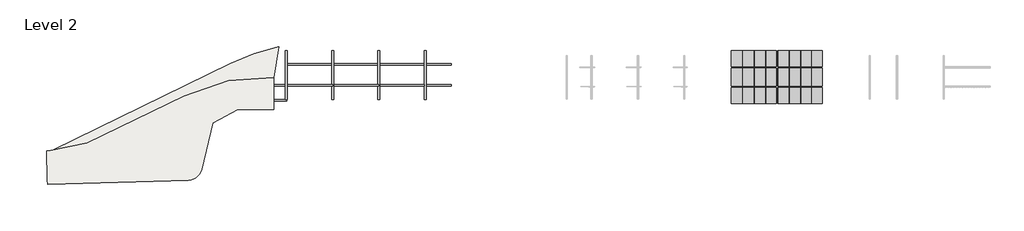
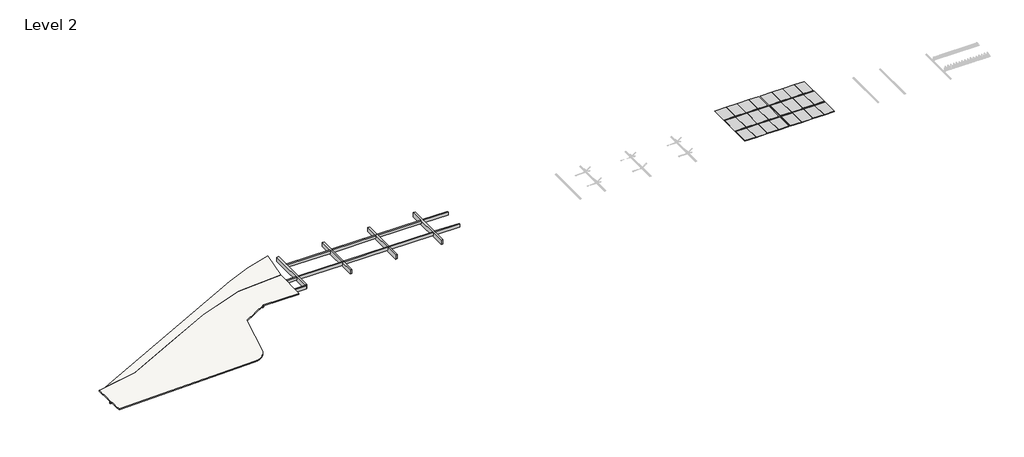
# One storey, part 1 of 3: 32 beams, 24 proxies, 2 slabs.
"""IFC4 building model written with IfcOpenShell, lengths in millimetres."""

import ifcopenshell
import ifcopenshell.guid

model = None  # the IFC model being written
_history = None  # IfcOwnerHistory: only IFC2X3 demands one
_inside = {}  # id of a spatial element -> (the spatial element, [elements in it])
_under = {}  # id of a project, library or spatial element -> (it, [spatial elements below it])
_declared = {}  # id of a project -> (the project, [libraries it declares])
_typed = {}  # id of a type object -> (the type object, [elements of that type])
_made_of = {}  # id of a material, layer set ... -> (it, [elements and type objects made of it])


def new_model(schema):
    """Start an empty IFC model of exactly this schema.

    Asked for "IFC4X3", IfcOpenShell would pick the latest addendum, in which some entities
    have other attributes; the version numbers below select the first issue.
    IFC2X3 requires an IfcOwnerHistory on every rooted entity: one is made here for all.
    """
    global model, _history
    if schema == "IFC4X3":
        model = ifcopenshell.file(schema_version=(4, 3, 0, 0))
    else:
        model = ifcopenshell.file(schema=schema)
    _inside.clear()
    _under.clear()
    _declared.clear()
    _typed.clear()
    _made_of.clear()
    _history = None
    if model.schema == "IFC2X3":
        org = make("IfcOrganization", Name="unknown")
        user = make(
            "IfcPersonAndOrganization",
            ThePerson=make("IfcPerson", FamilyName="unknown"),
            TheOrganization=org,
        )
        app = make(
            "IfcApplication",
            ApplicationDeveloper=org,
            Version="unknown",
            ApplicationFullName="unknown",
            ApplicationIdentifier="unknown",
        )
        _history = make(
            "IfcOwnerHistory",
            OwningUser=user,
            OwningApplication=app,
            ChangeAction="ADDED",
            CreationDate=0,
        )
    return model


def make(cls, **values):
    """One entity of the class cls with the attributes given. An attribute that is None is left unset."""
    return model.create_entity(
        cls, **{name: value for name, value in values.items() if value is not None}
    )


def rooted(cls, **values):
    """An entity with a GlobalId (a new one), such as an element, a storey or a relation."""
    return make(cls, GlobalId=ifcopenshell.guid.new(), OwnerHistory=_history, **values)


def si_unit(unit_type, name, prefix=None):
    """IfcSIUnit, for example si_unit("LENGTHUNIT", "METRE", prefix="MILLI")."""
    return make("IfcSIUnit", UnitType=unit_type, Prefix=prefix, Name=name)


def assignment(units):
    """IfcUnitAssignment: the units of a project."""
    return None if units is None else make("IfcUnitAssignment", Units=units)


def point(xyz):
    """IfcCartesianPoint."""
    return None if xyz is None else make("IfcCartesianPoint", Coordinates=xyz)


def direction(xyz):
    """IfcDirection."""
    return None if xyz is None else make("IfcDirection", DirectionRatios=xyz)


def frame(location, z_axis=None, x_axis=None):
    """IfcAxis2Placement3D, a coordinate frame: its origin and axes. An axis left out is left unset."""
    return make(
        "IfcAxis2Placement3D",
        Location=point(location),
        Axis=direction(z_axis),
        RefDirection=direction(x_axis),
    )


def frame_2d(location, x_axis=None):
    """IfcAxis2Placement2D, a coordinate frame in the plane: its origin and x axis."""
    return make(
        "IfcAxis2Placement2D", Location=point(location), RefDirection=direction(x_axis)
    )


def origin():
    """The frame at (0, 0, 0) with its axes left unset."""
    return frame((0.0, 0.0, 0.0))


def place(relative_to, where):
    """IfcLocalPlacement: puts the frame where relative to a parent placement (None: the world)."""
    return make(
        "IfcLocalPlacement", PlacementRelTo=relative_to, RelativePlacement=where
    )


def context(
    kind, dimensions, precision=None, world=None, true_north=None, identifier=None
):
    """IfcGeometricRepresentationContext, for example the 3D "Model" context."""
    return make(
        "IfcGeometricRepresentationContext",
        ContextIdentifier=identifier,
        ContextType=kind,
        CoordinateSpaceDimension=dimensions,
        Precision=precision,
        WorldCoordinateSystem=world,
        TrueNorth=true_north,
    )


def project(units=None, contexts=None):
    """IfcProject with its units and contexts."""
    return rooted(
        "IfcProject",
        Name="project",
        RepresentationContexts=contexts,
        UnitsInContext=assignment(units),
    )


def spatial(cls, under=None, at=None, **own):
    """A site, building, storey or space (cls), placed at a placement, below another one or the project."""
    s = rooted(cls, ObjectPlacement=at, **own)
    if under is not None:
        _under.setdefault(under.id(), (under, []))[1].append(s)
    return s


def polyline(points):
    """IfcPolyline through the points."""
    return make("IfcPolyline", Points=[point(p) for p in points])


def circle_curve(where, radius):
    """IfcCircle in the frame where."""
    return make("IfcCircle", Position=where, Radius=radius)


def trimmed(basis, trim1, trim2, sense, master):
    """IfcTrimmedCurve: the piece of a basis curve between two trims."""
    return make(
        "IfcTrimmedCurve",
        BasisCurve=basis,
        Trim1=trim1,
        Trim2=trim2,
        SenseAgreement=sense,
        MasterRepresentation=master,
    )


def segment(curve, same_sense, transition):
    """IfcCompositeCurveSegment."""
    return make(
        "IfcCompositeCurveSegment",
        Transition=transition,
        SameSense=same_sense,
        ParentCurve=curve,
    )


def composite_curve(segments, self_intersect=None):
    """IfcCompositeCurve: segments joined end to end."""
    return make("IfcCompositeCurve", Segments=segments, SelfIntersect=self_intersect)


def outline(outer, holes=None, kind="AREA"):
    """IfcArbitraryClosedProfileDef: a profile drawn as a closed curve; with holes, ...WithVoids."""
    if holes is None:
        return make("IfcArbitraryClosedProfileDef", ProfileType=kind, OuterCurve=outer)
    return make(
        "IfcArbitraryProfileDefWithVoids",
        ProfileType=kind,
        OuterCurve=outer,
        InnerCurves=holes,
    )


def extrude(swept, where, along, depth):
    """IfcExtrudedAreaSolid: the profile swept, set in the frame where, extruded along a direction by depth."""
    return make(
        "IfcExtrudedAreaSolid",
        SweptArea=swept,
        Position=where,
        ExtrudedDirection=direction(along),
        Depth=depth,
    )


def faces_of(points, faces, orient=None, outer=None):
    """IfcFace entities. A face is a list of loops; a loop is a list of indices into points, from 0.

    orient and outer hold one flag for each loop. By default every Orientation is true, the
    first loop of a face is its IfcFaceOuterBound and the others are IfcFaceBound.
    """
    made = []
    for i, loops in enumerate(faces):
        bounds = []
        for j, loop in enumerate(loops):
            is_outer = j == 0 if outer is None else outer[i][j]
            bounds.append(
                make(
                    "IfcFaceOuterBound" if is_outer else "IfcFaceBound",
                    Bound=make("IfcPolyLoop", Polygon=[points[k] for k in loop]),
                    Orientation=True if orient is None else orient[i][j],
                )
            )
        made.append(make("IfcFace", Bounds=bounds))
    return made


def faceted_brep(points, faces, orient=None, outer=None, voids=None):
    """IfcFacetedBrep: a solid bounded by flat faces; with voids (closed shells), ...WithVoids."""
    shared = [point(p) for p in points]
    hull = make("IfcClosedShell", CfsFaces=faces_of(shared, faces, orient, outer))
    if voids is None:
        return make("IfcFacetedBrep", Outer=hull)
    return make(
        "IfcFacetedBrepWithVoids",
        Outer=hull,
        Voids=[
            make(cls, CfsFaces=faces_of(shared, fs, o, b)) for cls, fs, o, b in voids
        ],
    )


def shape(context_of_items, identifier, shape_type, items):
    """IfcShapeRepresentation: the items that make up one representation, for example the "Body"."""
    return make(
        "IfcShapeRepresentation",
        ContextOfItems=context_of_items,
        RepresentationIdentifier=identifier,
        RepresentationType=shape_type,
        Items=items,
    )


def source(mapping_origin, context_of_items, identifier, shape_type, items):
    """IfcRepresentationMap: a shape defined once, which mapped items show again and again."""
    return make(
        "IfcRepresentationMap",
        MappingOrigin=mapping_origin,
        MappedRepresentation=shape(context_of_items, identifier, shape_type, items),
    )


def transform(
    local_origin,
    x_axis=None,
    y_axis=None,
    z_axis=None,
    scale=None,
    scale2=None,
    scale3=None,
    uniform=True,
):
    """IfcCartesianTransformationOperator3D, or its non-uniform kind. x_axis, y_axis, z_axis: its Axis1, 2, 3."""
    if uniform:
        return make(
            "IfcCartesianTransformationOperator3D",
            Axis1=direction(x_axis),
            Axis2=direction(y_axis),
            LocalOrigin=point(local_origin),
            Scale=scale,
            Axis3=direction(z_axis),
        )
    return make(
        "IfcCartesianTransformationOperator3DnonUniform",
        Axis1=direction(x_axis),
        Axis2=direction(y_axis),
        LocalOrigin=point(local_origin),
        Scale=scale,
        Axis3=direction(z_axis),
        Scale2=scale2,
        Scale3=scale3,
    )


def mapped(mapping_source, mapping_target):
    """IfcMappedItem: shows the shape of a source again, moved by a transform."""
    return make(
        "IfcMappedItem", MappingSource=mapping_source, MappingTarget=mapping_target
    )


def made_of(thing, what):
    """Note that an element or type object is made of a material, layer set ...; save() writes the relation."""
    if what is not None:
        _made_of.setdefault(what.id(), (what, []))[1].append(thing)
    return thing


def element(
    cls,
    number,
    at=None,
    inside=None,
    cuts=None,
    type_object=None,
    material=None,
    context=None,
    identifier="Body",
    shape_type=None,
    held_by="IfcProductDefinitionShape",
    body=None,
    shapes=None,
    **own,
):
    """One element of the class cls, such as IfcWall. Its Tag is "e" and its number.

    at: its placement. inside: the storey or other place that contains it. cuts: it is an
    opening in that element (IfcRelVoidsElement). A single representation is given by context,
    identifier, shape_type and body (its items); several are given by shapes. held_by: the class
    of the entity that holds the representations. save() writes the other relations.
    """
    e = rooted(cls, Tag="e%d" % number, ObjectPlacement=at, **own)
    if body is not None:
        shapes = [shape(context, identifier, shape_type, body)]
    if shapes is not None:
        e.Representation = make(held_by, Representations=shapes)
    if inside is not None:
        _inside.setdefault(inside.id(), (inside, []))[1].append(e)
    if cuts is not None:
        rooted(
            "IfcRelVoidsElement", RelatingBuildingElement=cuts, RelatedOpeningElement=e
        )
    if type_object is not None:
        _typed.setdefault(type_object.id(), (type_object, []))[1].append(e)
    return made_of(e, material)


def aggregate(whole, parts):
    """IfcRelAggregates: a whole, such as a stair, and the parts it consists of."""
    return rooted("IfcRelAggregates", RelatingObject=whole, RelatedObjects=parts)


def save(model, path):
    """Write the relations noted so far, then the file.

    IfcRelAggregates (storeys below a building ...), IfcRelContainedInSpatialStructure (elements
    in a storey), IfcRelDefinesByType, IfcRelAssociatesMaterial and IfcRelDeclares: one each for
    every whole, place, type object, material and project.
    """
    for whole, parts in _under.values():
        aggregate(whole, parts)
    for where, things in _inside.values():
        rooted(
            "IfcRelContainedInSpatialStructure",
            RelatedElements=things,
            RelatingStructure=where,
        )
    for kind, things in _typed.values():
        rooted("IfcRelDefinesByType", RelatedObjects=things, RelatingType=kind)
    for what, things in _made_of.values():
        rooted("IfcRelAssociatesMaterial", RelatedObjects=things, RelatingMaterial=what)
    for by, libraries in _declared.values():
        rooted("IfcRelDeclares", RelatingContext=by, RelatedDefinitions=libraries)
    model.write(path)


def plane_surface(at):
    """IfcPlane: the flat surface through the origin of the frame at, square to its z axis."""
    return make("IfcPlane", Position=at)


def cylinder_surface(at, radius):
    """IfcCylindricalSurface: all points at the distance radius from the z axis of the frame at."""
    return make("IfcCylindricalSurface", Position=at, Radius=radius)


def advanced_brep(points, edges, surfaces, faces):
    """IfcAdvancedBrep: a solid bounded by faces that lie on surfaces and meet in shared edges.

    An edge is (start, end): straight between two places in points (the first is 0);
    or (start, end, curve); or (start, end, curve, False) where it runs against its curve.
    A face is (place in surfaces, loops), or (place, loops, False) where it looks against
    its surface's normal. A loop lists edges by number (the first is 1), with a minus sign
    where the edge is run from its end to its start. The first loop is the outer one.
    """
    corners = [point(p) for p in points]
    vertices = [make("IfcVertexPoint", VertexGeometry=c) for c in corners]
    made = []
    for start, end, *more in edges:
        made.append(
            make(
                "IfcEdgeCurve",
                EdgeStart=vertices[start],
                EdgeEnd=vertices[end],
                EdgeGeometry=more[0] if more else make("IfcPolyline", Points=[corners[start], corners[end]]),
                SameSense=more[1] if len(more) > 1 else True,
            )
        )
    hull = []
    for where, loops, *sense in faces:
        bounds = []
        for j, loop in enumerate(loops):
            ring = [make("IfcOrientedEdge", EdgeElement=made[abs(k) - 1], Orientation=k > 0) for k in loop]
            bounds.append(
                make(
                    "IfcFaceOuterBound" if j == 0 else "IfcFaceBound",
                    Bound=make("IfcEdgeLoop", EdgeList=ring),
                    Orientation=True,
                )
            )
        hull.append(make("IfcAdvancedFace", Bounds=bounds, FaceSurface=surfaces[where], SameSense=sense[0] if sense else True))
    return make("IfcAdvancedBrep", Outer=make("IfcClosedShell", CfsFaces=hull))


def generic_models_ed41efe7(model_context):
    return source(origin(), model_context, "Body", "SweptSolid", [
        extrude(outline(polyline([(0.0, -1200.0), (0.0, 0.0), (1706.5, 0.0), (1706.5, -1200.0), (0.0, -1200.0)])), frame((0.0, 599.9853784, -4.1887562), z_axis=(0.0, 0.006981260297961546, 0.9999756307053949), x_axis=(1.0, 0.0, 0.0)), (0.0, 0.0, 1.0), 40.0),
    ])


def generic_models_6132fe0e(model_context):
    return source(origin(), model_context, "Body", "SweptSolid", [
        extrude(outline(polyline([(0.0, -1080.0), (0.0, 0.0), (1706.5, 0.0), (1706.5, -1080.0), (0.0, -1080.0)])), frame((0.0, 539.9868406, -3.7698806), z_axis=(0.0, 0.006981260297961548, 0.9999756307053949), x_axis=(1.0, 0.0, 0.0)), (0.0, 0.0, 1.0), 40.0),
    ])


def generic_models_38589909(model_context):
    return source(origin(), model_context, "Body", "SweptSolid", [
        extrude(outline(polyline([(0.0, -1200.0), (0.0, 0.0), (1890.0, 0.0), (1890.0, -1200.0), (0.0, -1200.0)])), frame((0.0, 599.9853784, -4.1887562), z_axis=(0.0, 0.006981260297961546, 0.9999756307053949), x_axis=(1.0, 0.0, 0.0)), (0.0, 0.0, 1.0), 40.0),
    ])


def generic_models_f24f269b(model_context):
    return source(origin(), model_context, "Body", "SweptSolid", [
        extrude(outline(polyline([(0.0, -1080.0), (0.0, 0.0), (1890.0, 0.0), (1890.0, -1080.0), (0.0, -1080.0)])), frame((0.0, 539.9868406, -3.7698806), z_axis=(0.0, 0.006981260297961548, 0.9999756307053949), x_axis=(1.0, 0.0, 0.0)), (0.0, 0.0, 1.0), 40.0),
    ])


def generic_models_33fa443c(model_context):
    return source(origin(), model_context, "Body", "SweptSolid", [
        extrude(outline(polyline([(0.0, -1200.0), (0.0, 0.0), (1668.6, 0.0), (1668.6, -1200.0), (0.0, -1200.0)])), frame((0.0, 599.9853784, -4.1887562), z_axis=(0.0, 0.006981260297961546, 0.9999756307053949), x_axis=(1.0, 0.0, 0.0)), (0.0, 0.0, 1.0), 40.0),
    ])


def generic_models_97837bbf(model_context):
    return source(origin(), model_context, "Body", "SweptSolid", [
        extrude(outline(polyline([(0.0, -1080.0), (0.0, 0.0), (1668.6, 0.0), (1668.6, -1080.0), (0.0, -1080.0)])), frame((0.0, 539.9868406, -3.7698806), z_axis=(0.0, 0.006981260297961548, 0.9999756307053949), x_axis=(1.0, 0.0, 0.0)), (0.0, 0.0, 1.0), 40.0),
    ])


model = new_model("IFC4")

# Units and contexts
model_context = context("Model", 3, world=origin())
ifc_project = project(units=[si_unit("LENGTHUNIT", "METRE", prefix="MILLI")], contexts=[model_context])

# Site, building, storey
site = spatial("IfcSite", under=ifc_project)
building = spatial("IfcBuilding", under=site)
storey = spatial("IfcBuildingStorey", under=building, Name="Level 2", Elevation=0.0)

# Beams
placement = place(None, origin())
element("IfcBeam", 1, ObjectType="Calcestruzzo - Trave rettangolare : 140 x 420mm", at=placement, inside=storey, context=model_context, shape_type="SweptSolid", body=[
    extrude(outline(polyline([(-39836.760163, 17690.665715), (-39841.1257436, 17830.5976331), (-35356.3077681, 17970.5144907), (-35351.9421876, 17830.5825726), (-39836.760163, 17690.665715)])), frame((0.0, 0.0, -620.0), z_axis=(0.0, 0.0, 1.0), x_axis=(1.0, 0.0, 0.0)), (0.0, 0.0, 1.0), 330.0),
])
element("IfcBeam", 2, ObjectType="Calcestruzzo - Trave rettangolare : 140 x 420mm", at=placement, inside=storey, context=model_context, shape_type="SweptSolid", body=[
    extrude(outline(polyline([(-24137.8379294, 18320.5070781), (-24171.5156126, 18179.3882904), (-25734.8772937, 18130.6147047), (-25739.2428743, 18270.5466228), (-24137.8379294, 18320.5070781)])), frame((0.0, 0.0, -620.0), z_axis=(0.0, 0.0, 1.0), x_axis=(1.0, 0.0, 0.0)), (0.0, 0.0, 1.0), 330.0),
])
element("IfcBeam", 3, ObjectType="Calcestruzzo - Trave rettangolare : 140 x 420mm", at=placement, inside=storey, context=model_context, shape_type="Brep", body=[
    faceted_brep([(-25942.3900071, 24389.7333416, -200.0), (-25946.7555877, 24529.6652597, -200.0), (-25946.7555877, 24529.6652597, -620.0), (-25942.3900071, 24389.7333416, -620.0), (-24644.0824984, 24430.2377964, -200.0), (-24246.9133429, 24582.696751, -200.0), (-24246.9133429, 24582.696751, -290.0), (-22985.0320383, 24622.0647851, -290.0), (-22985.0320383, 24622.0647851, -620.0), (-22980.6664577, 24482.132867, -620.0), (-22980.6664577, 24482.132867, -290.0), (-24644.0824984, 24430.2377964, -290.0)], [[[0, 1, 2, 3]], [[1, 0, 4, 5]], [[2, 1, 5, 6, 7, 8]], [[3, 2, 8, 9]], [[0, 3, 9, 10, 11, 4]], [[9, 8, 7, 10]], [[6, 11, 10, 7]], [[11, 6, 5, 4]]]),
])
element("IfcBeam", 4, ObjectType="Calcestruzzo - Trave rettangolare : 150 x 320mm", at=placement, inside=storey, context=model_context, shape_type="SweptSolid", body=[
    extrude(outline(polyline([(-471.3972271, -5311.275001), (-489.6179608, -571.2723874), (-170.2429329, -571.2723874), (-153.8415398, -5311.275001), (-471.3972271, -5311.275001)])), frame((0.0, 28318.3893107, 0.0), z_axis=(0.0, 1.0, 0.0), x_axis=(0.0, 0.0, 1.0)), (0.0, 0.0, 1.0), 150.0),
])
element("IfcBeam", 5, ObjectType="Calcestruzzo - Trave rettangolare : 150 x 320mm", at=placement, inside=storey, context=model_context, shape_type="Brep", body=[
    faceted_brep([(-5311.275001, 28318.3893107, -151.3948629), (-5311.275001, 28468.3893107, -151.3948629), (-10051.2776146, 28468.3893107, -138.2767532), (-10051.2776146, 28318.3893107, -138.2767532), (-5311.275001, 28468.3893107, -153.8415398), (-5311.275001, 28468.3893107, -471.3960884), (-10051.2776146, 28468.3893107, -458.2779787), (-5311.275001, 28318.3893107, -471.3960884), (-10051.2776146, 28318.3893107, -458.2779787), (-5311.275001, 28318.3893107, -153.8415398)], [[[0, 1, 2, 3]], [[1, 4, 5, 6, 2]], [[5, 7, 8, 6]], [[7, 9, 0, 3, 8]], [[3, 2, 6, 8]], [[0, 9, 7, 5, 4, 1]]]),
])
element("IfcBeam", 6, ObjectType="Calcestruzzo - Trave rettangolare : 150 x 320mm", at=placement, inside=storey, context=model_context, shape_type="SweptSolid", body=[
    extrude(outline(polyline([(-457.66095, -10251.2776146), (-138.0, -10251.2776146), (-138.0, -10151.2776146), (-121.8409095, -14891.2723874), (-441.842769, -14891.2723874), (-457.66095, -10251.2776146)])), frame((0.0, 28318.3893107, 0.0), z_axis=(0.0, 1.0, 0.0), x_axis=(0.0, 0.0, 1.0)), (0.0, 0.0, 1.0), 150.0),
])
element("IfcBeam", 7, ObjectType="Calcestruzzo - Trave rettangolare : 150 x 320mm", at=placement, inside=storey, context=model_context, shape_type="SweptSolid", body=[
    extrude(outline(polyline([(-473.5531519, -5311.275001), (-489.661999, -571.2723874), (-170.2429329, -571.2723874), (-153.8415398, -5311.275001), (-473.5531519, -5311.275001)])), frame((0.0, 26118.3881227, 0.0), z_axis=(0.0, 1.0, 0.0), x_axis=(0.0, 0.0, 1.0)), (0.0, 0.0, 1.0), 150.0),
])
element("IfcBeam", 8, ObjectType="Calcestruzzo - Trave rettangolare : 150 x 320mm", at=placement, inside=storey, context=model_context, shape_type="Brep", body=[
    faceted_brep([(-5311.275001, 26118.3881227, -153.551304), (-5311.275001, 26268.3881227, -153.551304), (-10051.2776146, 26268.3881227, -138.3213078), (-10051.2776146, 26118.3881227, -138.3213078), (-5311.275001, 26268.3881227, -153.8415398), (-5311.275001, 26268.3881227, -473.5529558), (-10051.2776146, 26268.3881227, -458.3229596), (-5311.275001, 26118.3881227, -473.5529558), (-10051.2776146, 26118.3881227, -458.3229596), (-5311.275001, 26118.3881227, -153.8415398)], [[[0, 1, 2, 3]], [[1, 4, 5, 6, 2]], [[5, 7, 8, 6]], [[7, 9, 0, 3, 8]], [[3, 2, 6, 8]], [[0, 9, 7, 5, 4, 1]]]),
])
element("IfcBeam", 9, ObjectType="Calcestruzzo - Trave rettangolare : 150 x 320mm", at=placement, inside=storey, context=model_context, shape_type="SweptSolid", body=[
    extrude(outline(polyline([(-457.66095, -10251.2776146), (-138.0, -10251.2776146), (-138.0, -10151.2776146), (-121.8409095, -14891.2723874), (-441.842769, -14891.2723874), (-457.66095, -10251.2776146)])), frame((0.0, 26118.3881227, 0.0), z_axis=(0.0, 1.0, 0.0), x_axis=(0.0, 0.0, 1.0)), (0.0, 0.0, 1.0), 150.0),
])
element("IfcBeam", 10, ObjectType="Calcestruzzo - Trave rettangolare : 150 x 320mm", at=placement, inside=storey, context=model_context, shape_type="SweptSolid", body=[
    extrude(outline(polyline([(-520.119785, 2254.8123385), (-200.1392898, 2258.3454283), (-171.1041579, -371.2723874), (-491.1236639, -371.2723874), (-520.119785, 2254.8123385)])), frame((0.0, 26118.3881227, 0.0), z_axis=(0.0, 1.0, 0.0), x_axis=(0.0, 0.0, 1.0)), (0.0, 0.0, 1.0), 150.0),
])
element("IfcBeam", 11, ObjectType="Calcestruzzo - Trave rettangolare : 150 x 320mm", at=placement, inside=storey, context=model_context, shape_type="SweptSolid", body=[
    extrude(outline(polyline([(-520.1195295, 2261.8216332), (-200.1389343, 2265.345645), (-171.1013205, -371.2723874), (-491.1207264, -371.2723874), (-520.1195295, 2261.8216332)])), frame((0.0, 28318.3893107, 0.0), z_axis=(0.0, 1.0, 0.0), x_axis=(0.0, 0.0, 1.0)), (0.0, 0.0, 1.0), 150.0),
])
element("IfcBeam", 12, ObjectType="Calcestruzzo - Trave rettangolare : 150 x 320mm", at=placement, inside=storey, context=model_context, shape_type="SweptSolid", body=[
    extrude(outline(polyline([(-30597.4939823, 18123.9818721), (-30592.8165746, 17974.054817), (-35151.8835338, 17831.8215478), (-35156.5609416, 17981.7486029), (-30597.4939823, 18123.9818721)])), frame((0.0, 0.0, -520.0), z_axis=(0.0, 0.0, 1.0), x_axis=(1.0, 0.0, 0.0)), (0.0, 0.0, 1.0), 230.0),
])
element("IfcBeam", 13, ObjectType="Calcestruzzo - Trave rettangolare : 150 x 320mm", at=placement, inside=storey, context=model_context, shape_type="Brep", body=[
    faceted_brep([(-35229.8480314, 20330.8526607, -200.0), (-35225.1706237, 20180.9256056, -200.0), (-34853.6119962, 20192.5174507, -200.0), (-34501.5357736, 20353.5744664, -200.0), (-35229.8480314, 20330.8526607, -520.0), (-34501.5357736, 20353.5744664, -290.0), (-30670.7810722, 20473.0859299, -290.0), (-30670.7810722, 20473.0859299, -520.0), (-35225.1706237, 20180.9256056, -520.0), (-30666.1036644, 20323.1588748, -520.0), (-30666.1036644, 20323.1588748, -290.0), (-34853.6119962, 20192.5174507, -290.0)], [[[0, 1, 2, 3]], [[4, 0, 3, 5, 6, 7]], [[8, 4, 7, 9]], [[1, 8, 9, 10, 11, 2]], [[0, 4, 8, 1]], [[9, 7, 6, 10]], [[5, 11, 10, 6]], [[11, 5, 3, 2]]]),
])
element("IfcBeam", 14, ObjectType="Calcestruzzo - Trave rettangolare : 150 x 320mm", at=placement, inside=storey, context=model_context, shape_type="SweptSolid", body=[
    extrude(outline(polyline([(-30392.9138344, 17980.2913607), (-30397.5912422, 18130.2184158), (-25939.3015281, 18269.3076477), (-25934.6241203, 18119.3805925), (-30392.9138344, 17980.2913607)])), frame((0.0, 0.0, -520.0), z_axis=(0.0, 0.0, 1.0), x_axis=(1.0, 0.0, 0.0)), (0.0, 0.0, 1.0), 230.0),
])
element("IfcBeam", 15, ObjectType="Calcestruzzo - Trave rettangolare : 150 x 320mm", at=placement, inside=storey, context=model_context, shape_type="SweptSolid", body=[
    extrude(outline(polyline([(-26037.5764604, 20617.6321375), (-26032.8990527, 20467.7050824), (-30466.2009243, 20329.3954185), (-30470.878332, 20479.3224736), (-26037.5764604, 20617.6321375)])), frame((0.0, 0.0, -520.0), z_axis=(0.0, 0.0, 1.0), x_axis=(1.0, 0.0, 0.0)), (0.0, 0.0, 1.0), 230.0),
])
element("IfcBeam", 16, ObjectType="Calcestruzzo - Trave rettangolare : 150 x 320mm", at=placement, inside=storey, context=model_context, shape_type="SweptSolid", body=[
    extrude(outline(polyline([(-25783.0206275, 20475.500762), (-25787.6980352, 20625.4278171), (-23364.1129988, 20701.0385563), (-23400.1962308, 20549.8398553), (-25783.0206275, 20475.500762)])), frame((0.0, 0.0, -520.0), z_axis=(0.0, 0.0, 1.0), x_axis=(1.0, 0.0, 0.0)), (0.0, 0.0, 1.0), 230.0),
])
element("IfcBeam", 17, ObjectType="Calcestruzzo - Trave rettangolare : 150 x 320mm", at=placement, inside=storey, context=model_context, shape_type="Brep", body=[
    faceted_brep([(-30536.1215469, 22178.0300127, -200.0), (-30536.1215469, 22178.0300127, -520.0), (-30531.4441392, 22028.1029576, -520.0), (-30531.4441392, 22028.1029576, -290.0), (-30535.7992042, 22167.697817, -290.0), (-30535.7992042, 22167.697817, -200.0), (-30523.2718094, 22173.4284648, -200.0), (-30509.0871967, 22178.8734274, -200.0), (-30509.0871967, 22178.8734274, -290.0), (-26065.5966174, 22317.5009575, -290.0), (-26065.5966174, 22317.5009575, -520.0), (-26060.9192097, 22167.5739024, -520.0), (-26060.9192097, 22167.5739024, -290.0), (-30523.2718094, 22173.4284648, -290.0)], [[[0, 1, 2, 3, 4, 5]], [[0, 5, 6, 7]], [[1, 0, 7, 8, 9, 10]], [[2, 1, 10, 11]], [[2, 11, 12, 3]], [[11, 10, 9, 12]], [[8, 13, 4, 3, 12, 9]], [[4, 13, 6, 5]], [[13, 8, 7, 6]]]),
])
element("IfcBeam", 18, ObjectType="Calcestruzzo - Trave rettangolare : 150 x 320mm", at=placement, inside=storey, context=model_context, shape_type="SweptSolid", body=[
    extrude(outline(polyline([(-25861.0164695, 22173.8104461), (-25865.6938773, 22323.7375012), (-22955.1899289, 22414.539083), (-22991.2731609, 22263.340382), (-25861.0164695, 22173.8104461)])), frame((0.0, 0.0, -520.0), z_axis=(0.0, 0.0, 1.0), x_axis=(1.0, 0.0, 0.0)), (0.0, 0.0, 1.0), 230.0),
])
element("IfcBeam", 19, ObjectType="Calcestruzzo - Trave rettangolare : 150 x 320mm", at=placement, inside=storey, context=model_context, shape_type="Brep", body=[
    faceted_brep([(-19927.6787789, 24572.3772079, -200.0), (-19932.3561867, 24722.304263, -200.0), (-21894.1292349, 24661.1010834, -200.0), (-21822.7709321, 24513.2543315, -200.0), (-19932.3561867, 24722.304263, -520.0), (-22785.2852117, 24633.2988973, -520.0), (-22785.2852117, 24633.2988973, -290.0), (-21894.1292349, 24661.1010834, -290.0), (-22780.6078039, 24483.3718421, -520.0), (-19927.6787789, 24572.3772079, -520.0), (-21822.7709321, 24513.2543315, -290.0), (-22780.6078039, 24483.3718421, -290.0)], [[[0, 1, 2, 3]], [[1, 4, 5, 6, 7, 2]], [[8, 5, 4, 9]], [[9, 0, 3, 10, 11, 8]], [[5, 8, 11, 6]], [[4, 1, 0, 9]], [[10, 7, 6, 11]], [[7, 10, 3, 2]]]),
])
element("IfcBeam", 20, ObjectType="Calcestruzzo - Trave rettangolare : 150 x 320mm", at=placement, inside=storey, context=model_context, shape_type="SweptSolid", body=[
    extrude(outline(polyline([(-22817.7558339, 25674.0943568), (-22822.4635653, 25824.9933897), (-19979.6858506, 26239.3832696), (-19974.9781191, 26088.4842367), (-22817.7558339, 25674.0943568)])), frame((0.0, 0.0, -520.0), z_axis=(0.0, 0.0, 1.0), x_axis=(1.0, 0.0, 0.0)), (0.0, 0.0, 1.0), 320.0),
])
element("IfcBeam", 21, ObjectType="Calcestruzzo - Trave rettangolare : 150 x 320mm", at=placement, inside=storey, context=model_context, shape_type="SweptSolid", body=[
    extrude(outline(polyline([(-19732.339, 24572.3066945), (-19732.339, 24722.3066945), (-15091.2723874, 24722.3066945), (-15091.2723874, 24702.6979993), (-14978.939, 24702.6979993), (-14978.939, 24572.3066945), (-19732.339, 24572.3066945)])), frame((0.0, 0.0, -520.0), z_axis=(0.0, 0.0, 1.0), x_axis=(1.0, 0.0, 0.0)), (0.0, 0.0, 1.0), 320.0),
])
element("IfcBeam", 22, ObjectType="Calcestruzzo - Trave rettangolare : 150 x 320mm", at=placement, inside=storey, context=model_context, shape_type="SweptSolid", body=[
    extrude(outline(polyline([(-200.2076059, -19732.5115118), (-520.163522, -19727.2000387), (-443.204154, -15091.2723874), (-123.160064, -15091.2723874), (-200.2076059, -19732.5115118)])), frame((0.0, 26118.3893107, 0.0), z_axis=(0.0, 1.0, 0.0), x_axis=(0.0, 0.0, 1.0)), (0.0, 0.0, 1.0), 150.0),
])
element("IfcBeam", 23, ObjectType="Calcestruzzo - Trave rettangolare : 200 x 470mm", at=placement, inside=storey, context=model_context, shape_type="SweptSolid", body=[
    extrude(outline(polyline([(0.0, -200.0), (0.0, 0.0), (5126.4, 0.0), (5126.4, -200.0), (0.0, -200.0)])), frame((-5211.275001, 29829.5878966, -619.9873269), z_axis=(0.0, -0.0009801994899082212, 0.9999995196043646), x_axis=(0.0, -0.9999995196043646, -0.0009801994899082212)), (0.0, 0.0, 1.0), 470.0),
])
element("IfcBeam", 24, ObjectType="Calcestruzzo - Trave rettangolare : 200 x 470mm", at=placement, inside=storey, context=model_context, shape_type="Brep", body=[
    faceted_brep([(-10251.2776146, 29829.1284342, -138.0), (-10051.2776146, 29829.1284342, -138.0), (-10051.2776146, 29829.1284342, -608.0), (-10251.2776146, 29829.1284342, -608.0), (-10251.2776146, 24702.7284342, -138.0), (-10251.2776146, 24702.7284342, -608.0), (-10051.2776146, 24702.7284342, -608.0), (-10051.2776146, 24702.7284342, -138.0), (-10251.2776146, 28468.3893107, -138.0), (-10251.2776146, 28318.3893107, -138.0), (-10251.2776146, 26268.3881227, -138.0), (-10251.2776146, 26118.3881227, -138.0)], [[[0, 1, 2, 3]], [[4, 5, 6, 7]], [[1, 0, 8, 9, 10, 11, 4, 7]], [[2, 1, 7, 6]], [[3, 2, 6, 5]], [[0, 3, 5, 4, 11, 10, 9, 8]]]),
])
element("IfcBeam", 25, ObjectType="Calcestruzzo - Trave rettangolare : 200 x 470mm", at=placement, inside=storey, context=model_context, shape_type="Brep", body=[
    faceted_brep([(-15091.2723874, 29829.3979993, -121.5), (-14891.2723874, 29829.3979993, -121.5), (-14891.2723874, 29829.3979993, -591.5), (-15091.2723874, 29829.3979993, -591.5), (-15091.2723874, 24702.6979993, -121.5), (-15091.2723874, 24702.6979993, -200.0), (-15091.2723874, 24702.6979993, -520.0), (-15091.2723874, 24702.6979993, -591.5), (-14891.2723874, 24702.6979993, -591.5), (-14891.2723874, 24702.6979993, -121.5)], [[[0, 1, 2, 3]], [[4, 5, 6, 7, 8, 9]], [[1, 0, 4, 9]], [[2, 1, 9, 8]], [[3, 2, 8, 7]], [[0, 3, 7, 6, 5, 4]]]),
])
element("IfcBeam", 26, ObjectType="Calcestruzzo - Trave rettangolare : 200 x 470mm", at=placement, inside=storey, context=model_context, shape_type="Brep", body=[
    faceted_brep([(-371.2723874, 29829.1284342, -640.0), (-571.2723874, 29829.1284342, -640.0), (-571.2723874, 29829.1284342, -170.2429329), (-371.2723874, 29829.1284342, -170.9349744), (-571.2723874, 24702.7284342, -640.0), (-371.2723874, 24702.7284342, -640.0), (-371.2723874, 24702.7284342, -170.9349744), (-571.2723874, 24702.7284342, -170.2429329), (-571.2723874, 26118.3881227, -170.2429329), (-571.2723874, 26268.3881227, -170.2429329), (-571.2723874, 28318.3893107, -170.2429329), (-571.2723874, 28468.3893107, -170.2429329)], [[[0, 1, 2, 3]], [[4, 5, 6, 7]], [[5, 0, 3, 6]], [[1, 0, 5, 4]], [[1, 4, 7, 8, 9, 10, 11, 2]], [[3, 2, 11, 10, 9, 8, 7, 6]]]),
])
element("IfcBeam", 27, ObjectType="Calcestruzzo - Trave rettangolare : 200 x 470mm", at=placement, inside=storey, context=model_context, shape_type="Brep", body=[
    faceted_brep([(-30518.9232127, 22019.3266445, -670.0), (-30718.8259528, 22013.0901008, -670.0), (-30718.8259528, 22013.0901008, -290.0), (-30518.9232127, 22019.3266445, -290.0), (-30558.9708651, 16889.1830651, -670.0), (-30359.0681249, 16895.4196087, -670.0), (-30359.0681249, 16895.4196087, -290.0), (-30558.9708651, 16889.1830651, -290.0), (-30470.878332, 20479.3224736, -290.0), (-30466.2009243, 20329.3954185, -290.0), (-30397.5912422, 18130.2184158, -290.0), (-30392.9138344, 17980.2913607, -290.0), (-30592.8165746, 17974.054817, -290.0), (-30597.4939823, 18123.9818721, -290.0), (-30666.1036644, 20323.1588748, -290.0), (-30670.7810722, 20473.0859299, -290.0)], [[[0, 1, 2, 3]], [[4, 5, 6, 7]], [[5, 0, 3, 8, 9, 10, 11, 6]], [[1, 0, 5, 4]], [[1, 4, 7, 12, 13, 14, 15, 2]], [[3, 2, 15, 14, 13, 12, 7, 6, 11, 10, 9, 8]]]),
])
element("IfcBeam", 28, ObjectType="Calcestruzzo - Trave rettangolare : 200 x 470mm", at=placement, inside=storey, context=model_context, shape_type="Brep", body=[
    faceted_brep([(-25900.793169, 17034.9818914, -670.0), (-25700.8904288, 17041.2184351, -670.0), (-25700.8904288, 17041.2184351, -290.0), (-25900.793169, 17034.9818914, -290.0), (-25804.1106302, 20349.7819814, -670.0), (-25804.1106302, 20349.7819814, -290.0), (-25739.2428743, 18270.5466228, -290.0), (-25734.8772937, 18130.6147047, -290.0), (-26004.0133704, 20343.5454377, -670.0), (-25934.6241203, 18119.3805925, -290.0), (-25939.3015281, 18269.3076477, -290.0), (-26004.0133704, 20343.5454377, -290.0)], [[[0, 1, 2, 3]], [[1, 4, 5, 6, 7, 2]], [[1, 0, 8, 4]], [[8, 0, 3, 9, 10, 11]], [[4, 8, 11, 5]], [[3, 2, 7, 6, 5, 11, 10, 9]]]),
])
element("IfcBeam", 29, ObjectType="Calcestruzzo - Trave rettangolare : 200 x 470mm", at=placement, inside=storey, context=model_context, shape_type="Brep", body=[
    faceted_brep([(-26129.763919, 24374.2843389, -200.0), (-25929.8611788, 24380.5208826, -200.0), (-25929.8611788, 24380.5208826, -670.0), (-26129.763919, 24374.2843389, -670.0), (-26113.9072975, 23866.0249182, -200.0), (-25916.1779472, 23941.9261045, -200.0), (-25916.1779472, 23941.9261045, -290.0), (-25865.6938773, 22323.7375012, -290.0), (-25861.0164695, 22173.8104461, -290.0), (-25816.5837176, 20749.5874617, -290.0), (-25816.5837176, 20749.5874617, -670.0), (-26016.4864577, 20743.3509181, -670.0), (-26016.4864577, 20743.3509181, -290.0), (-26060.9192097, 22167.5739024, -290.0), (-26065.5966174, 22317.5009575, -290.0), (-26113.9072975, 23866.0249182, -290.0)], [[[0, 1, 2, 3]], [[1, 0, 4, 5]], [[2, 1, 5, 6, 7, 8, 9, 10]], [[3, 2, 10, 11]], [[0, 3, 11, 12, 13, 14, 15, 4]], [[11, 10, 9, 12]], [[6, 15, 14, 13, 12, 9, 8, 7]], [[15, 6, 5, 4]]]),
])
element("IfcBeam", 30, ObjectType="Calcestruzzo - Trave rettangolare : 200 x 470mm", at=placement, inside=storey, context=model_context, shape_type="Brep", body=[
    faceted_brep([(-35436.7903775, 20550.2597713, -200.0), (-35236.8876373, 20556.496315, -200.0), (-35236.8876373, 20556.496315, -670.0), (-35436.7903775, 20550.2597713, -670.0), (-35317.9405644, 16740.7132521, -670.0), (-35118.0378243, 16746.9497958, -670.0), (-35118.0378243, 16746.9497958, -290.0), (-35317.9405644, 16740.7132521, -290.0), (-35417.4027365, 19928.8189923, -200.0), (-35355.9771356, 19962.7108779, -200.0), (-35220.2991071, 20024.7766947, -200.0), (-35225.1706237, 20180.9256056, -200.0), (-35229.8480314, 20330.8526607, -200.0), (-35220.2991071, 20024.7766947, -290.0), (-35156.5609416, 17981.7486029, -290.0), (-35151.8835338, 17831.8215478, -290.0), (-35351.9421876, 17830.5825726, -290.0), (-35356.3077681, 17970.5144907, -290.0), (-35417.4027365, 19928.8189923, -290.0), (-35355.9771356, 19962.7108779, -290.0)], [[[0, 1, 2, 3]], [[4, 5, 6, 7]], [[1, 0, 8, 9, 10, 11, 12]], [[2, 1, 12, 11, 10, 13, 14, 15, 6, 5]], [[3, 2, 5, 4]], [[0, 3, 4, 7, 16, 17, 18, 8]], [[13, 19, 18, 17, 16, 7, 6, 15, 14]], [[18, 19, 9, 8]], [[19, 13, 10, 9]]]),
])
element("IfcBeam", 31, ObjectType="Calcestruzzo - Trave rettangolare : 200 x 470mm", at=placement, inside=storey, context=model_context, shape_type="Brep", body=[
    faceted_brep([(-23029.282018, 26040.4292899, -200.0), (-22829.3792778, 26046.6658336, -200.0), (-22829.3792778, 26046.6658336, -670.0), (-23029.282018, 26040.4292899, -670.0), (-22998.7515102, 25061.8211885, -200.0), (-22801.0221598, 25137.7223748, -200.0), (-22817.7558339, 25674.0943568, -200.0), (-22822.4635653, 25824.9933897, -200.0), (-22801.0221598, 25137.7223748, -290.0), (-22785.2852117, 24633.2988973, -290.0), (-22780.6078039, 24483.3718421, -290.0), (-22721.4297882, 22586.5122835, -290.0), (-22721.4297882, 22586.5122835, -670.0), (-22918.1982765, 22479.8121554, -670.0), (-22918.1982765, 22479.8121554, -290.0), (-22980.6664577, 24482.132867, -290.0), (-22985.0320383, 24622.0647851, -290.0), (-22998.7515102, 25061.8211885, -290.0)], [[[0, 1, 2, 3]], [[1, 0, 4, 5, 6, 7]], [[2, 1, 7, 6, 5, 8, 9, 10, 11, 12]], [[3, 2, 12, 13]], [[0, 3, 13, 14, 15, 16, 17, 4]], [[13, 12, 11, 14]], [[8, 17, 16, 15, 14, 11, 10, 9]], [[17, 8, 5, 4]]]),
])
element("IfcBeam", 32, ObjectType="Calcestruzzo - Trave rettangolare : 200 x 470mm", at=placement, inside=storey, context=model_context, shape_type="Brep", body=[
    faceted_brep([(-19998.0839711, 26829.1065033, -200.0), (-19798.181231, 26835.343047, -200.0), (-19798.181231, 26835.343047, -670.0), (-19998.0839711, 26829.1065033, -670.0), (-19979.6858506, 26239.3832696, -200.0), (-19974.9781191, 26088.4842367, -200.0), (-19932.3561867, 24722.304263, -200.0), (-19927.6787789, 24572.3772079, -200.0), (-19913.2315061, 24109.2922725, -200.0), (-19721.2634438, 24213.3893107, -200.0), (-19716.3818069, 24213.3893107, -200.0), (-19716.3818069, 24213.3893107, -670.0), (-19721.2634438, 24213.3893107, -670.0), (-19913.2315061, 24109.2922725, -670.0)], [[[0, 1, 2, 3]], [[1, 0, 4, 5, 6, 7, 8, 9, 10]], [[2, 1, 10, 11]], [[3, 2, 11, 12, 13]], [[0, 3, 13, 8, 7, 6, 5, 4]], [[12, 9, 8, 13]], [[9, 12, 11, 10]]]),
])

# Proxies
generic_models_shape = generic_models_ed41efe7(model_context)
element("IfcBuildingElementProxy", 33, Name="lastra tralicciata_inclinata_senza alleggerimenti : lastra tralicciata_inclinata_due_rompitratta", ObjectType="lastra tralicciata_inclinata_senza alleggerimenti : lastra tralicciata_inclinata_due_rompitratta", at=placement, inside=storey, context=model_context, shape_type="MappedRepresentation", body=[
    mapped(generic_models_shape, transform((32152.0635057, 25993.3920265, 0.446539), x_axis=(0.0, -1.0, 0.0), y_axis=(1.0, 0.0, 0.0), z_axis=(0.0, 0.0, 1.0))),
])
element("IfcBuildingElementProxy", 34, Name="lastra tralicciata_inclinata_senza alleggerimenti : lastra tralicciata_inclinata_due_rompitratta", ObjectType="lastra tralicciata_inclinata_senza alleggerimenti : lastra tralicciata_inclinata_due_rompitratta", at=placement, inside=storey, context=model_context, shape_type="MappedRepresentation", body=[
    mapped(generic_models_shape, transform((33352.0635057, 25993.3920265, 0.446539), x_axis=(0.0, -1.0, 0.0), y_axis=(1.0, 0.0, 0.0), z_axis=(0.0, 0.0, 1.0))),
])
element("IfcBuildingElementProxy", 35, Name="lastra tralicciata_inclinata_senza alleggerimenti : lastra tralicciata_inclinata_due_rompitratta", ObjectType="lastra tralicciata_inclinata_senza alleggerimenti : lastra tralicciata_inclinata_due_rompitratta", at=placement, inside=storey, context=model_context, shape_type="MappedRepresentation", body=[
    mapped(generic_models_shape, transform((34552.0342626, 25993.3920265, 0.9662457), x_axis=(0.0, -1.0, 0.0), y_axis=(1.0, 0.0, 0.0), z_axis=(0.0, 0.0, 1.0))),
])
element("IfcBuildingElementProxy", 36, Name="lastra tralicciata_inclinata_senza alleggerimenti : lastra tralicciata_inclinata_due_rompitratta", ObjectType="lastra tralicciata_inclinata_senza alleggerimenti : lastra tralicciata_inclinata_due_rompitratta", at=placement, inside=storey, context=model_context, shape_type="MappedRepresentation", body=[
    mapped(generic_models_shape, transform((36992.0635057, 25993.3920265, 0.446539), x_axis=(0.0, -1.0, 0.0), y_axis=(1.0, 0.0, 0.0), z_axis=(0.0, 0.0, 1.0))),
])
element("IfcBuildingElementProxy", 37, Name="lastra tralicciata_inclinata_senza alleggerimenti : lastra tralicciata_inclinata_due_rompitratta", ObjectType="lastra tralicciata_inclinata_senza alleggerimenti : lastra tralicciata_inclinata_due_rompitratta", at=placement, inside=storey, context=model_context, shape_type="MappedRepresentation", body=[
    mapped(generic_models_shape, transform((38192.0635057, 25993.3920265, 0.446539), x_axis=(0.0, -1.0, 0.0), y_axis=(1.0, 0.0, 0.0), z_axis=(0.0, 0.0, 1.0))),
])
element("IfcBuildingElementProxy", 38, Name="lastra tralicciata_inclinata_senza alleggerimenti : lastra tralicciata_inclinata_due_rompitratta", ObjectType="lastra tralicciata_inclinata_senza alleggerimenti : lastra tralicciata_inclinata_due_rompitratta", at=placement, inside=storey, context=model_context, shape_type="MappedRepresentation", body=[
    mapped(generic_models_shape, transform((39392.0342626, 25993.3920265, 0.9662457), x_axis=(0.0, -1.0, 0.0), y_axis=(1.0, 0.0, 0.0), z_axis=(0.0, 0.0, 1.0))),
])
generic_models_2_shape = generic_models_6132fe0e(model_context)
element("IfcBuildingElementProxy", 39, Name="lastra tralicciata_inclinata_senza alleggerimenti : lastra tralicciata_inclinata_due_rompitratta", ObjectType="lastra tralicciata_inclinata_senza alleggerimenti : lastra tralicciata_inclinata_due_rompitratta", at=placement, inside=storey, context=model_context, shape_type="MappedRepresentation", body=[
    mapped(generic_models_2_shape, transform((35692.0064816, 25993.3920265, 1.4859525), x_axis=(0.0, -1.0, 0.0), y_axis=(1.0, 0.0, 0.0), z_axis=(0.0, 0.0, 1.0))),
])
element("IfcBuildingElementProxy", 40, Name="lastra tralicciata_inclinata_senza alleggerimenti : lastra tralicciata_inclinata_due_rompitratta", ObjectType="lastra tralicciata_inclinata_senza alleggerimenti : lastra tralicciata_inclinata_due_rompitratta", at=placement, inside=storey, context=model_context, shape_type="MappedRepresentation", body=[
    mapped(generic_models_2_shape, transform((40532.0064816, 25993.3920265, 1.4859525), x_axis=(0.0, -1.0, 0.0), y_axis=(1.0, 0.0, 0.0), z_axis=(0.0, 0.0, 1.0))),
])
generic_models_3_shape = generic_models_38589909(model_context)
element("IfcBuildingElementProxy", 41, Name="lastra tralicciata_inclinata_senza alleggerimenti : lastra tralicciata_inclinata_due_rompitratta", ObjectType="lastra tralicciata_inclinata_senza alleggerimenti : lastra tralicciata_inclinata_due_rompitratta", at=placement, inside=storey, context=model_context, shape_type="MappedRepresentation", body=[
    mapped(generic_models_3_shape, transform((32152.0635057, 28023.3920265, 0.446539), x_axis=(0.0, -1.0, 0.0), y_axis=(1.0, 0.0, 0.0), z_axis=(0.0, 0.0, 1.0))),
])
element("IfcBuildingElementProxy", 42, Name="lastra tralicciata_inclinata_senza alleggerimenti : lastra tralicciata_inclinata_due_rompitratta", ObjectType="lastra tralicciata_inclinata_senza alleggerimenti : lastra tralicciata_inclinata_due_rompitratta", at=placement, inside=storey, context=model_context, shape_type="MappedRepresentation", body=[
    mapped(generic_models_3_shape, transform((33352.0635057, 28023.3920265, 0.446539), x_axis=(0.0, -1.0, 0.0), y_axis=(1.0, 0.0, 0.0), z_axis=(0.0, 0.0, 1.0))),
])
element("IfcBuildingElementProxy", 43, Name="lastra tralicciata_inclinata_senza alleggerimenti : lastra tralicciata_inclinata_due_rompitratta", ObjectType="lastra tralicciata_inclinata_senza alleggerimenti : lastra tralicciata_inclinata_due_rompitratta", at=placement, inside=storey, context=model_context, shape_type="MappedRepresentation", body=[
    mapped(generic_models_3_shape, transform((34552.0342626, 28023.3920265, 0.9662457), x_axis=(0.0, -1.0, 0.0), y_axis=(1.0, 0.0, 0.0), z_axis=(0.0, 0.0, 1.0))),
])
element("IfcBuildingElementProxy", 44, Name="lastra tralicciata_inclinata_senza alleggerimenti : lastra tralicciata_inclinata_due_rompitratta", ObjectType="lastra tralicciata_inclinata_senza alleggerimenti : lastra tralicciata_inclinata_due_rompitratta", at=placement, inside=storey, context=model_context, shape_type="MappedRepresentation", body=[
    mapped(generic_models_3_shape, transform((36992.0635057, 28023.3920265, 0.446539), x_axis=(0.0, -1.0, 0.0), y_axis=(1.0, 0.0, 0.0), z_axis=(0.0, 0.0, 1.0))),
])
element("IfcBuildingElementProxy", 45, Name="lastra tralicciata_inclinata_senza alleggerimenti : lastra tralicciata_inclinata_due_rompitratta", ObjectType="lastra tralicciata_inclinata_senza alleggerimenti : lastra tralicciata_inclinata_due_rompitratta", at=placement, inside=storey, context=model_context, shape_type="MappedRepresentation", body=[
    mapped(generic_models_3_shape, transform((38192.0635057, 28023.3920265, 0.446539), x_axis=(0.0, -1.0, 0.0), y_axis=(1.0, 0.0, 0.0), z_axis=(0.0, 0.0, 1.0))),
])
element("IfcBuildingElementProxy", 46, Name="lastra tralicciata_inclinata_senza alleggerimenti : lastra tralicciata_inclinata_due_rompitratta", ObjectType="lastra tralicciata_inclinata_senza alleggerimenti : lastra tralicciata_inclinata_due_rompitratta", at=placement, inside=storey, context=model_context, shape_type="MappedRepresentation", body=[
    mapped(generic_models_3_shape, transform((39392.0342626, 28023.3920265, 0.9662457), x_axis=(0.0, -1.0, 0.0), y_axis=(1.0, 0.0, 0.0), z_axis=(0.0, 0.0, 1.0))),
])
generic_models_4_shape = generic_models_f24f269b(model_context)
element("IfcBuildingElementProxy", 47, Name="lastra tralicciata_inclinata_senza alleggerimenti : lastra tralicciata_inclinata_due_rompitratta", ObjectType="lastra tralicciata_inclinata_senza alleggerimenti : lastra tralicciata_inclinata_due_rompitratta", at=placement, inside=storey, context=model_context, shape_type="MappedRepresentation", body=[
    mapped(generic_models_4_shape, transform((35692.0064816, 28023.3920265, 1.4859525), x_axis=(0.0, -1.0, 0.0), y_axis=(1.0, 0.0, 0.0), z_axis=(0.0, 0.0, 1.0))),
])
element("IfcBuildingElementProxy", 48, Name="lastra tralicciata_inclinata_senza alleggerimenti : lastra tralicciata_inclinata_due_rompitratta", ObjectType="lastra tralicciata_inclinata_senza alleggerimenti : lastra tralicciata_inclinata_due_rompitratta", at=placement, inside=storey, context=model_context, shape_type="MappedRepresentation", body=[
    mapped(generic_models_4_shape, transform((40532.0064816, 28023.3920265, 1.4859525), x_axis=(0.0, -1.0, 0.0), y_axis=(1.0, 0.0, 0.0), z_axis=(0.0, 0.0, 1.0))),
])
generic_models_5_shape = generic_models_33fa443c(model_context)
element("IfcBuildingElementProxy", 49, Name="lastra tralicciata_inclinata_senza alleggerimenti : lastra tralicciata_inclinata_due_rompitratta", ObjectType="lastra tralicciata_inclinata_senza alleggerimenti : lastra tralicciata_inclinata_due_rompitratta", at=placement, inside=storey, context=model_context, shape_type="MappedRepresentation", body=[
    mapped(generic_models_5_shape, transform((32152.0635057, 29831.9920265, 0.446539), x_axis=(0.0, -1.0, 0.0), y_axis=(1.0, 0.0, 0.0), z_axis=(0.0, 0.0, 1.0))),
])
element("IfcBuildingElementProxy", 50, Name="lastra tralicciata_inclinata_senza alleggerimenti : lastra tralicciata_inclinata_due_rompitratta", ObjectType="lastra tralicciata_inclinata_senza alleggerimenti : lastra tralicciata_inclinata_due_rompitratta", at=placement, inside=storey, context=model_context, shape_type="MappedRepresentation", body=[
    mapped(generic_models_5_shape, transform((33352.0635057, 29831.9920265, 0.446539), x_axis=(0.0, -1.0, 0.0), y_axis=(1.0, 0.0, 0.0), z_axis=(0.0, 0.0, 1.0))),
])
element("IfcBuildingElementProxy", 51, Name="lastra tralicciata_inclinata_senza alleggerimenti : lastra tralicciata_inclinata_due_rompitratta", ObjectType="lastra tralicciata_inclinata_senza alleggerimenti : lastra tralicciata_inclinata_due_rompitratta", at=placement, inside=storey, context=model_context, shape_type="MappedRepresentation", body=[
    mapped(generic_models_5_shape, transform((34552.0342626, 29831.9920265, 0.9662457), x_axis=(0.0, -1.0, 0.0), y_axis=(1.0, 0.0, 0.0), z_axis=(0.0, 0.0, 1.0))),
])
element("IfcBuildingElementProxy", 52, Name="lastra tralicciata_inclinata_senza alleggerimenti : lastra tralicciata_inclinata_due_rompitratta", ObjectType="lastra tralicciata_inclinata_senza alleggerimenti : lastra tralicciata_inclinata_due_rompitratta", at=placement, inside=storey, context=model_context, shape_type="MappedRepresentation", body=[
    mapped(generic_models_5_shape, transform((36992.0635057, 29831.9920265, 0.446539), x_axis=(0.0, -1.0, 0.0), y_axis=(1.0, 0.0, 0.0), z_axis=(0.0, 0.0, 1.0))),
])
element("IfcBuildingElementProxy", 53, Name="lastra tralicciata_inclinata_senza alleggerimenti : lastra tralicciata_inclinata_due_rompitratta", ObjectType="lastra tralicciata_inclinata_senza alleggerimenti : lastra tralicciata_inclinata_due_rompitratta", at=placement, inside=storey, context=model_context, shape_type="MappedRepresentation", body=[
    mapped(generic_models_5_shape, transform((38192.0635057, 29831.9920265, 0.446539), x_axis=(0.0, -1.0, 0.0), y_axis=(1.0, 0.0, 0.0), z_axis=(0.0, 0.0, 1.0))),
])
element("IfcBuildingElementProxy", 54, Name="lastra tralicciata_inclinata_senza alleggerimenti : lastra tralicciata_inclinata_due_rompitratta", ObjectType="lastra tralicciata_inclinata_senza alleggerimenti : lastra tralicciata_inclinata_due_rompitratta", at=placement, inside=storey, context=model_context, shape_type="MappedRepresentation", body=[
    mapped(generic_models_5_shape, transform((39392.0342626, 29831.9920265, 0.9662457), x_axis=(0.0, -1.0, 0.0), y_axis=(1.0, 0.0, 0.0), z_axis=(0.0, 0.0, 1.0))),
])
generic_models_6_shape = generic_models_97837bbf(model_context)
element("IfcBuildingElementProxy", 55, Name="lastra tralicciata_inclinata_senza alleggerimenti : lastra tralicciata_inclinata_due_rompitratta", ObjectType="lastra tralicciata_inclinata_senza alleggerimenti : lastra tralicciata_inclinata_due_rompitratta", at=placement, inside=storey, context=model_context, shape_type="MappedRepresentation", body=[
    mapped(generic_models_6_shape, transform((35692.0064816, 29831.9920265, 1.4859525), x_axis=(0.0, -1.0, 0.0), y_axis=(1.0, 0.0, 0.0), z_axis=(0.0, 0.0, 1.0))),
])
element("IfcBuildingElementProxy", 56, Name="lastra tralicciata_inclinata_senza alleggerimenti : lastra tralicciata_inclinata_due_rompitratta", ObjectType="lastra tralicciata_inclinata_senza alleggerimenti : lastra tralicciata_inclinata_due_rompitratta", at=placement, inside=storey, context=model_context, shape_type="MappedRepresentation", body=[
    mapped(generic_models_6_shape, transform((40532.0064816, 29831.9920265, 1.4859525), x_axis=(0.0, -1.0, 0.0), y_axis=(1.0, 0.0, 0.0), z_axis=(0.0, 0.0, 1.0))),
])

# Slabs
element("IfcSlab", 57, ObjectType="Concrete Slab - 12cm", at=placement, inside=storey, context=model_context, shape_type="AdvancedBrep", body=[
    advanced_brep(
    [(-16304.9559475, 23663.3893107, -120.0), (-20106.1902004, 23663.3893107, -120.0), (-22682.0743313, 22266.5845219, -120.0), (-23639.2847971, 18255.6084779, -120.0), (-23697.3170715, 18012.4372314, -120.0), (-23839.6334547, 17416.0923063, -120.0), (-25236.3765724, 16265.5796241, -120.0), (-39974.3074783, 15805.7872777, -120.0), (-39989.8963337, 16305.4638714, -120.0), (-40083.444489, 19304.0049737, -120.0), (-39888.2851813, 19342.2203035, -120.0), (-35815.3823592, 20139.7601498, -120.0), (-30760.5646428, 22605.1594794, -120.0), (-25688.162848, 25079.135137, -120.0), (-20996.4996759, 26694.6043194, -120.0), (-16304.9559475, 27022.6690154, -120.0), (-16304.9559475, 23663.3893107, 0.0), (-16304.9559475, 27022.6690154, 0.0), (-20996.4996759, 26694.6043194, 0.0), (-25688.162848, 25079.135137, 0.0), (-30760.5646428, 22605.1594794, 0.0), (-35815.3823592, 20139.7601498, 0.0), (-39888.2851813, 19342.2203035, 0.0), (-40083.444489, 19304.0049737, 0.0), (-39989.8963337, 16305.4638714, 0.0), (-39974.3074783, 15805.7872777, 0.0), (-25236.3765724, 16265.5796241, 0.0), (-23839.6334547, 17416.0923063, 0.0), (-22682.0743313, 22266.5845219, 0.0), (-20106.1902004, 23663.3893107, 0.0)],
    [
        (0, 1),
        (1, 2),
        (2, 3),
        (3, 4),
        (4, 5),
        (5, 6, circle_curve(frame((-25298.6609338, 17764.2859523, -120.0), z_axis=(0.0, 0.0, -1.0), x_axis=(1.0, 0.0, 0.0)), 1500.0)),
        (6, 7),
        (7, 8),
        (8, 9),
        (9, 10),
        (10, 11),
        (11, 12),
        (12, 13),
        (13, 14),
        (14, 15),
        (15, 0),
        (16, 17),
        (17, 18),
        (18, 19),
        (19, 20),
        (20, 21),
        (21, 22),
        (22, 23),
        (23, 24),
        (24, 25),
        (25, 26),
        (26, 27, circle_curve(frame((-25298.6609338, 17764.2859523, 0.0), z_axis=(0.0, 0.0, 1.0), x_axis=(1.0, 0.0, 0.0)), 1500.0)),
        (27, 28),
        (28, 29),
        (29, 16),
        (0, 16),
        (29, 1),
        (28, 2),
        (27, 5),
        (26, 6),
        (25, 7),
        (23, 9),
        (21, 11),
        (20, 12),
        (19, 13),
        (18, 14),
        (17, 15),
    ],
    [
        plane_surface(frame((-20106.1902004, 23663.3893107, -120.0), z_axis=(0.0, 0.0, -1.0), x_axis=(-1.0, 0.0, 0.0))),
        plane_surface(frame((-20106.1902004, 23663.3893107, 0.0), z_axis=(0.0, 0.0, 1.0), x_axis=(1.0, 0.0, 0.0))),
        plane_surface(frame((-16304.9559475, 23663.3893107, -120.0), z_axis=(0.0, -1.0, 0.0), x_axis=(0.0, 0.0, 1.0))),
        plane_surface(frame((-20106.1902004, 23663.3893107, -120.0), z_axis=(0.4766879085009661, -0.8790726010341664, 0.0), x_axis=(0.0, 0.0, 1.0))),
        plane_surface(frame((-22682.0743313, 22266.5845219, -120.0), z_axis=(0.972684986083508, -0.23212909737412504, 0.0), x_axis=(0.0, 0.0, 1.0))),
        cylinder_surface(frame((-25298.6609338, 17764.2859523, 0.0), z_axis=(0.0, 0.0, -1.0), x_axis=(1.0, 0.0, 0.0)), 1500.0),
        plane_surface(frame((-25236.3765724, 16265.5796241, -120.0), z_axis=(0.031182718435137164, -0.9995137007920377, 0.0), x_axis=(0.0, 0.0, 1.0))),
        plane_surface(frame((-39974.3074783, 15805.7872777, -120.0), z_axis=(-0.9995137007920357, -0.031182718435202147, 0.0), x_axis=(0.0, 0.0, 1.0))),
        plane_surface(frame((-40083.444489, 19304.0049737, -120.0), z_axis=(-0.19216652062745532, 0.9813623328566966, 0.0), x_axis=(0.0, 0.0, 1.0))),
        plane_surface(frame((-35815.3823592, 20139.7601498, -120.0), z_axis=(-0.4383711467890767, 0.8987940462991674, 0.0), x_axis=(0.0, 0.0, 1.0))),
        plane_surface(frame((-30760.5646428, 22605.1594794, -120.0), z_axis=(-0.4383711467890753, 0.898794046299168, 0.0), x_axis=(0.0, 0.0, 1.0))),
        plane_surface(frame((-25688.162848, 25079.135137, -120.0), z_axis=(-0.3255681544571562, 0.9455185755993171, 0.0), x_axis=(0.0, 0.0, 1.0))),
        plane_surface(frame((-20996.4996759, 26694.6043194, -120.0), z_axis=(-0.06975647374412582, 0.9975640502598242, 0.0), x_axis=(0.0, 0.0, 1.0))),
        plane_surface(frame((-16304.9559475, 27022.6690154, -120.0), z_axis=(1.0, 0.0, 0.0), x_axis=(0.0, 0.0, 1.0))),
    ],
    [
        (0, [[1, 2, 3, 4, 5, 6, 7, 8, 9, 10, 11, 12, 13, 14, 15, 16]]),
        (1, [[17, 18, 19, 20, 21, 22, 23, 24, 25, 26, 27, 28, 29, 30]]),
        (2, [[-1, 31, -30, 32]]),
        (3, [[-2, -32, -29, 33]]),
        (4, [[-5, -4, -3, -33, -28, 34]]),
        (5, [[-6, -34, -27, 35]]),
        (6, [[-7, -35, -26, 36]]),
        (7, [[-9, -8, -36, -25, -24, 37]]),
        (8, [[-11, -10, -37, -23, -22, 38]]),
        (9, [[-12, -38, -21, 39]]),
        (10, [[-13, -39, -20, 40]]),
        (11, [[-14, -40, -19, 41]]),
        (12, [[-15, -41, -18, 42]]),
        (13, [[-16, -42, -17, -31]]),
    ],
),
])
element("IfcSlab", 58, ObjectType="Concrete Slab - 12cm", at=placement, inside=storey, context=model_context, shape_type="SweptSolid", body=[
    extrude(outline(composite_curve([segment(polyline([(-20996.4996759, 26694.6043194), (-25688.162848, 25079.135137), (-30760.5646428, 22605.1594794), (-35815.3823592, 20139.7601498), (-39361.1805953, 19445.4358549), (-20855.6881355, 28503.3072261)]), True, "CONTINUOUS"), segment(trimmed(circle_curve(frame_2d((-10805.7246287, 7970.9419193)), 22860.0041903), [point((-20855.6881355, 28503.3072261))], [point((-15788.8531914, 30281.213574))], False, "CARTESIAN"), True, "CONTINUOUS"), segment(polyline([(-15788.8531914, 30281.213574), (-16304.9559475, 27022.6690154), (-20996.4996759, 26694.6043194)]), True, "CONTINUOUS")], self_intersect=False)), frame((0.0, 0.0, -120.0), z_axis=(0.0, 0.0, 1.0), x_axis=(1.0, 0.0, 0.0)), (0.0, 0.0, 1.0), 120.0),
])

save(model, "model.ifc")
